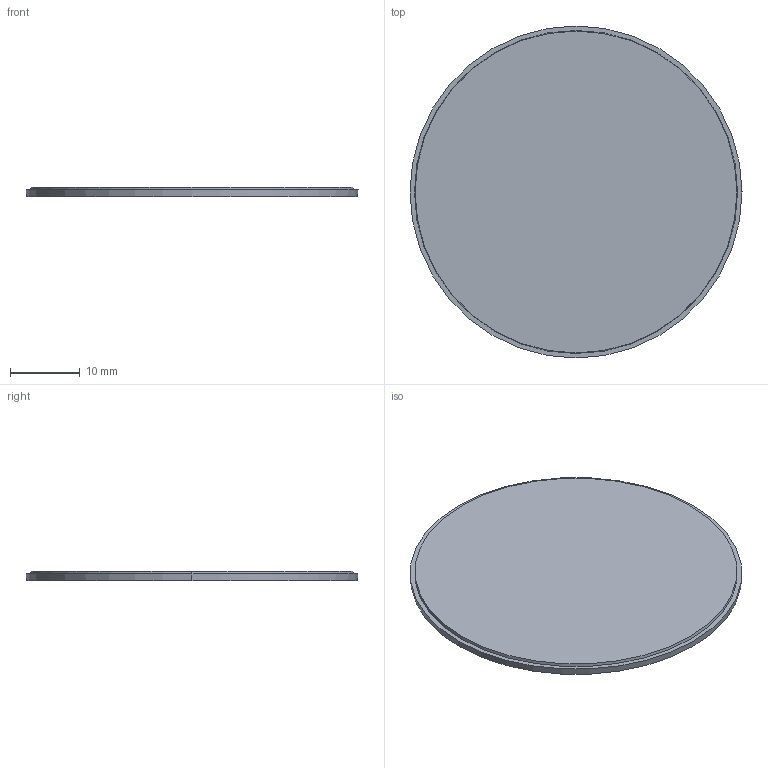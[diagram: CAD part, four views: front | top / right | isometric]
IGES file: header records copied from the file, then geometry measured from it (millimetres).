
Global section: file name: C:\CoreTechnologie\3D-In/022YN04Y04.igs; native system: CT CoreTechnologie 3D Evolution; preprocessor: 2006; date: 1200912.074320; units: millimetre
Bounding box: 47.56 x 47.56 x 1.4 mm (x, y, z)
Volume: 2439.5 mm3; surface area: 3736.2 mm2
Topology: 1 solids, 1 shells, 7 faces, 16 edges, 12 vertices
Faces by surface type: revolution 4, plane 3
